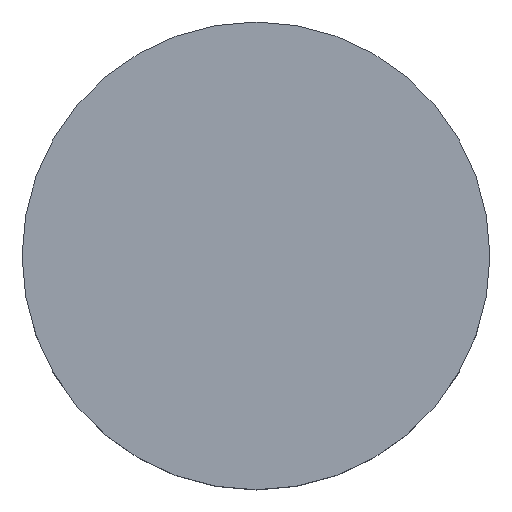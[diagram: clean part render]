
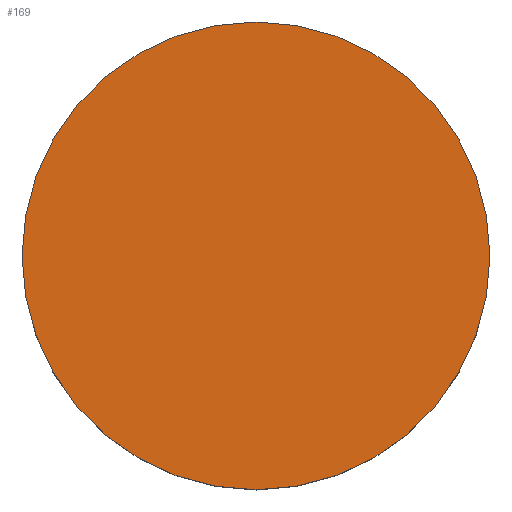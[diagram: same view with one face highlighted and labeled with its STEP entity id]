
A CAD part, top view. The second image highlights one B-rep face of the part: STEP entity #169.
In plain terms, the highlighted planar face has unit normal (0, 0, 1).
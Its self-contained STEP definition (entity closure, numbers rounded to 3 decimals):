
#169=ADVANCED_FACE('',(#209),#200,.T.);
#200=PLANE('',#534);
#209=FACE_OUTER_BOUND('',#233,.T.);
#233=EDGE_LOOP('',(#271,#272));
#271=ORIENTED_EDGE('',*,*,#429,.F.);
#272=ORIENTED_EDGE('',*,*,#430,.F.);
#391=VERTEX_POINT('',#773);
#392=VERTEX_POINT('',#774);
#429=EDGE_CURVE('',#391,#392,#489,.T.);
#430=EDGE_CURVE('',#392,#391,#490,.T.);
#489=CIRCLE('',#532,9.5);
#490=CIRCLE('',#533,9.5);
#532=AXIS2_PLACEMENT_3D('',#772,#607,#608);
#533=AXIS2_PLACEMENT_3D('',#775,#609,#610);
#534=AXIS2_PLACEMENT_3D('',#776,#611,#612);
#607=DIRECTION('',(0.,0.,-1.));
#608=DIRECTION('',(0.,1.,0.));
#609=DIRECTION('',(0.,0.,-1.));
#610=DIRECTION('',(0.,-1.,0.));
#611=DIRECTION('',(0.,0.,1.));
#612=DIRECTION('',(0.,-1.,0.));
#772=CARTESIAN_POINT('',(0.,0.,5.));
#773=CARTESIAN_POINT('',(9.5,0.,5.));
#774=CARTESIAN_POINT('',(-9.5,0.,5.));
#775=CARTESIAN_POINT('',(0.,0.,5.));
#776=CARTESIAN_POINT('',(0.,0.,5.));
